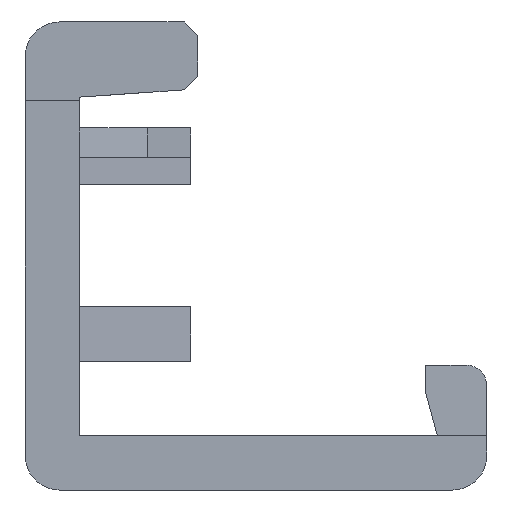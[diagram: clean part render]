
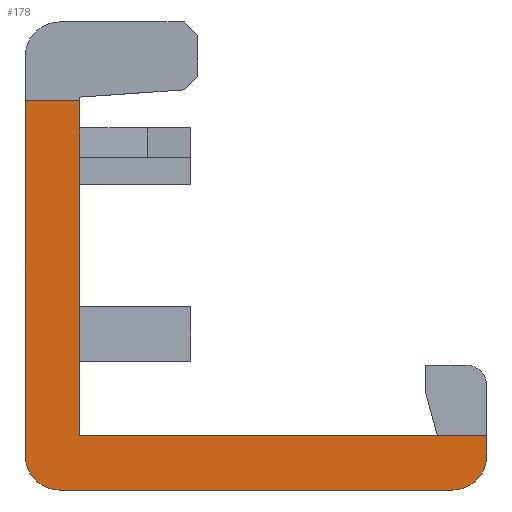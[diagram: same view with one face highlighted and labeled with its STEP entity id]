
A CAD part, left-side view. The second image highlights one B-rep face of the part: STEP entity #178.
In plain terms, the highlighted planar face has unit normal (-1, 0, 0).
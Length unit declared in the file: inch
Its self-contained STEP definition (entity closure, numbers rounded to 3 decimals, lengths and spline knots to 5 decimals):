
#178 = ADVANCED_FACE ( 'NONE', ( #4084 ), #1968, .F. ) ;
#755 = CARTESIAN_POINT ( 'NONE',  ( -0.25, 0.13, -0.05818 ) ) ;
#756 = CARTESIAN_POINT ( 'NONE',  ( -0.25, 0.13, -0.305 ) ) ;
#758 = CARTESIAN_POINT ( 'NONE',  ( -0.25, 0.17, -0.32 ) ) ;
#759 = CARTESIAN_POINT ( 'NONE',  ( -0.25, 0.17, -0.05818 ) ) ;
#761 = CARTESIAN_POINT ( 'NONE',  ( -0.25, 0.145, -0.345 ) ) ;
#763 = CARTESIAN_POINT ( 'NONE',  ( -0.25, -0.145, -0.345 ) ) ;
#784 = CARTESIAN_POINT ( 'NONE',  ( -0.25, -0.17, -0.305 ) ) ;
#785 = CARTESIAN_POINT ( 'NONE',  ( -0.25, -0.17, -0.32 ) ) ;
#880 = DIRECTION ( 'NONE',  ( 0., 1., 0. ) ) ;
#881 = CARTESIAN_POINT ( 'NONE',  ( -0.25, -0.145, -0.345 ) ) ;
#892 = DIRECTION ( 'NONE',  ( 0., -1., 0. ) ) ;
#894 = CARTESIAN_POINT ( 'NONE',  ( -0.25, 0., -0.05818 ) ) ;
#897 = DIRECTION ( 'NONE',  ( 0., 0., -1. ) ) ;
#898 = DIRECTION ( 'NONE',  ( 1., 0., 0. ) ) ;
#900 = DIRECTION ( 'NONE',  ( 0., 0., 1. ) ) ;
#901 = CARTESIAN_POINT ( 'NONE',  ( -0.25, 0.17, 0. ) ) ;
#908 = DIRECTION ( 'NONE',  ( 0., 0., -1. ) ) ;
#909 = DIRECTION ( 'NONE',  ( 1., 0., 0. ) ) ;
#912 = DIRECTION ( 'NONE',  ( 0., -1., 0. ) ) ;
#913 = CARTESIAN_POINT ( 'NONE',  ( -0.25, 0., -0.305 ) ) ;
#918 = DIRECTION ( 'NONE',  ( 0., 0., -1. ) ) ;
#919 = CARTESIAN_POINT ( 'NONE',  ( -0.25, 0.13, 0. ) ) ;
#930 = DIRECTION ( 'NONE',  ( 0., 0., -1. ) ) ;
#931 = CARTESIAN_POINT ( 'NONE',  ( -0.25, -0.17, -0.305 ) ) ;
#939 = CARTESIAN_POINT ( 'NONE',  ( -0.25, 0.145, -0.32 ) ) ;
#942 = CARTESIAN_POINT ( 'NONE',  ( -0.25, -0.145, -0.32 ) ) ;
#1965 = DIRECTION ( 'NONE',  ( 0., 0., -1. ) ) ;
#1966 = DIRECTION ( 'NONE',  ( 1., 0., 0. ) ) ;
#1968 = PLANE ( 'NONE',  #4524 ) ;
#1969 = CARTESIAN_POINT ( 'NONE',  ( -0.25, 0., 0. ) ) ;
#2180 = VERTEX_POINT ( 'NONE', #763 ) ;
#2182 = VERTEX_POINT ( 'NONE', #761 ) ;
#2184 = VERTEX_POINT ( 'NONE', #759 ) ;
#2185 = VERTEX_POINT ( 'NONE', #758 ) ;
#2187 = VERTEX_POINT ( 'NONE', #756 ) ;
#2188 = VERTEX_POINT ( 'NONE', #755 ) ;
#2190 = VERTEX_POINT ( 'NONE', #785 ) ;
#2191 = VERTEX_POINT ( 'NONE', #784 ) ;
#3264 = LINE ( 'NONE', #931, #3265 ) ;
#3265 = VECTOR ( 'NONE', #930, 39.37008 ) ;
#3276 = LINE ( 'NONE', #919, #3277 ) ;
#3277 = VECTOR ( 'NONE', #918, 39.37008 ) ;
#3282 = LINE ( 'NONE', #913, #3283 ) ;
#3283 = VECTOR ( 'NONE', #912, 39.37008 ) ;
#3286 = LINE ( 'NONE', #894, #3295 ) ;
#3288 = CIRCLE ( 'NONE', #4657, 0.025 ) ;
#3293 = LINE ( 'NONE', #901, #3294 ) ;
#3294 = VECTOR ( 'NONE', #900, 39.37008 ) ;
#3295 = VECTOR ( 'NONE', #892, 39.37008 ) ;
#3296 = CIRCLE ( 'NONE', #4659, 0.025 ) ;
#3300 = LINE ( 'NONE', #881, #3301 ) ;
#3301 = VECTOR ( 'NONE', #880, 39.37008 ) ;
#3820 = ORIENTED_EDGE ( 'NONE', *, *, #4459, .F. ) ;
#3821 = ORIENTED_EDGE ( 'NONE', *, *, #4455, .F. ) ;
#3822 = ORIENTED_EDGE ( 'NONE', *, *, #4469, .F. ) ;
#3823 = ORIENTED_EDGE ( 'NONE', *, *, #4460, .F. ) ;
#3824 = ORIENTED_EDGE ( 'NONE', *, *, #4444, .F. ) ;
#3825 = ORIENTED_EDGE ( 'NONE', *, *, #4453, .F. ) ;
#3826 = ORIENTED_EDGE ( 'NONE', *, *, #4450, .F. ) ;
#3827 = ORIENTED_EDGE ( 'NONE', *, *, #4463, .F. ) ;
#4084 = FACE_OUTER_BOUND ( 'NONE', #5417, .T. ) ;
#4444 = EDGE_CURVE ( 'NONE', #2191, #2190, #3264, .T. ) ;
#4450 = EDGE_CURVE ( 'NONE', #2188, #2187, #3276, .T. ) ;
#4453 = EDGE_CURVE ( 'NONE', #2187, #2191, #3282, .T. ) ;
#4455 = EDGE_CURVE ( 'NONE', #2182, #2185, #3288, .T. ) ;
#4459 = EDGE_CURVE ( 'NONE', #2185, #2184, #3293, .T. ) ;
#4460 = EDGE_CURVE ( 'NONE', #2190, #2180, #3296, .T. ) ;
#4463 = EDGE_CURVE ( 'NONE', #2184, #2188, #3286, .T. ) ;
#4469 = EDGE_CURVE ( 'NONE', #2180, #2182, #3300, .T. ) ;
#4524 = AXIS2_PLACEMENT_3D ( 'NONE', #1969, #1966, #1965 ) ;
#4657 = AXIS2_PLACEMENT_3D ( 'NONE', #939, #909, #908 ) ;
#4659 = AXIS2_PLACEMENT_3D ( 'NONE', #942, #898, #897 ) ;
#5417 = EDGE_LOOP ( 'NONE', ( #3820, #3821, #3822, #3823, #3824, #3825, #3826, #3827 ) ) ;
